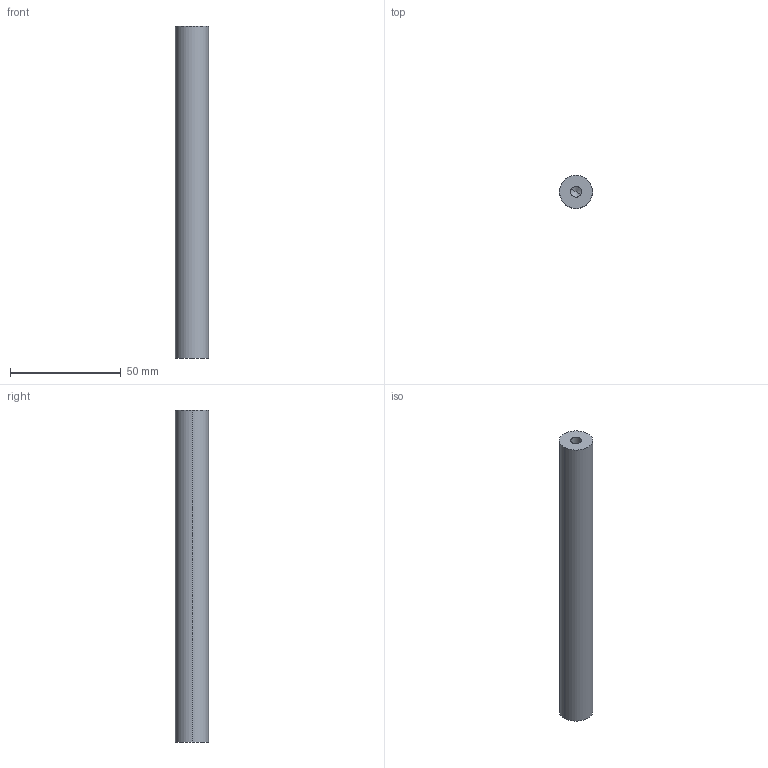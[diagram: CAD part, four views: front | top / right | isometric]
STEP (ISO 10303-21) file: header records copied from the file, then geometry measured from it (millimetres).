
FILE_DESCRIPTION(('CATIA V5 STEP Exchange'),'2;1');
FILE_NAME('C:\Users\Moi\Desktop\Eng divers\mesure guidon\outil guidon va\OG003 Curseur.stp','2016-06-27T16:21:39+00:00',('none'),('none'),'CATIA Version 5 Release 21 GA (IN-10)','CATIA V5 STEP AP203','none');
FILE_SCHEMA(('CONFIG_CONTROL_DESIGN'));
Length unit declared in the file: millimetre
Products named in the file (1): curseur
Bounding box: 15 x 15 x 150 mm (x, y, z)
Volume: 26023.5 mm3; surface area: 7811.1 mm2
Topology: 1 solids, 1 shells, 8 faces, 16 edges, 9 vertices
Faces by surface type: cylinder 4, cone 2, plane 2
Entity records: 217 total; most frequent: CARTESIAN_POINT 29, ORIENTED_EDGE 28, DIRECTION 24, AXIS2_PLACEMENT_3D 14, EDGE_CURVE 14, EDGE_LOOP 9, VERTEX_POINT 9, ADVANCED_FACE 8
